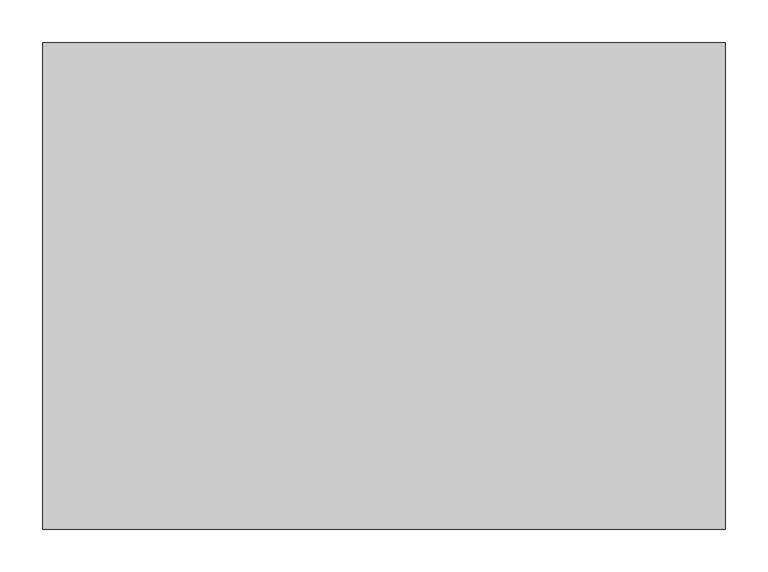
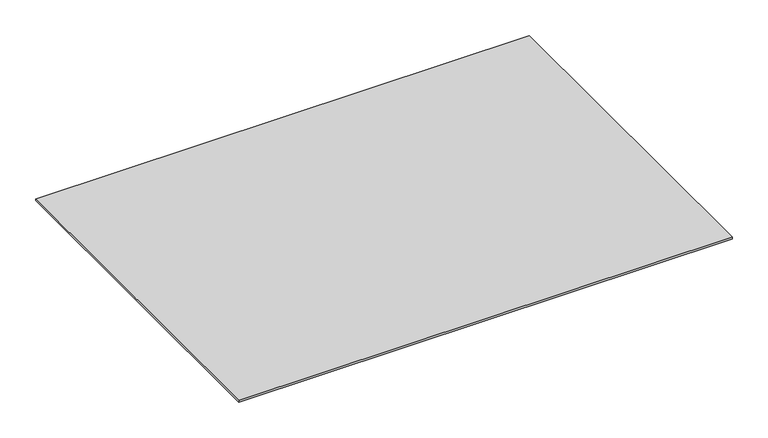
"""IFC4 building model written with IfcOpenShell, lengths in millimetres: proxy geometry, Electrical_Installation_Hager_Blank-Cover-BKAD : Electrical_Installation_Hager_Blank-Cover-BKAD."""

from ifc_helpers import new_model, si_unit, frame, origin, place, context, project, spatial, polyline, outline, extrude, source, transform, mapped, element, save


def electrical_fixtures_cec88ef4(model_context):
    return source(origin(), model_context, "Body", "SweptSolid", [
        extrude(outline(polyline([(800.0, 285.0), (800.0, -285.0), (0.0, -285.0), (0.0, 285.0), (800.0, 285.0)])), frame((0.0, 0.0, 10.0), z_axis=(0.0, 0.0, 1.0), x_axis=(1.0, 0.0, 0.0)), (0.0, 0.0, 1.0), 3.0),
    ])


if __name__ == "__main__":
    model = new_model("IFC4")
    model_context = context("Model", 3, world=origin())
    ifc_project = project(units=[si_unit("LENGTHUNIT", "METRE", prefix="MILLI")], contexts=[model_context])
    site = spatial("IfcSite", under=ifc_project)
    building = spatial("IfcBuilding", under=site)
    placement = place(None, origin())
    electrical_fixtures_shape = electrical_fixtures_cec88ef4(model_context)
    element("IfcBuildingElementProxy", 1, Name="Electrical_Installation_Hager_Blank-Cover-BKAD : Electrical_Installation_Hager_Blank-Cover-BKAD", ObjectType="Electrical_Installation_Hager_Blank-Cover-BKAD : Electrical_Installation_Hager_Blank-Cover-BKAD", at=placement, inside=building, context=model_context, shape_type="MappedRepresentation", body=[
        mapped(electrical_fixtures_shape, transform((0.0, 0.0, 0.0), x_axis=(1.0, 0.0, 0.0), y_axis=(0.0, 1.0, 0.0), z_axis=(0.0, 0.0, 1.0))),
    ])
    save(model, "model.ifc")
